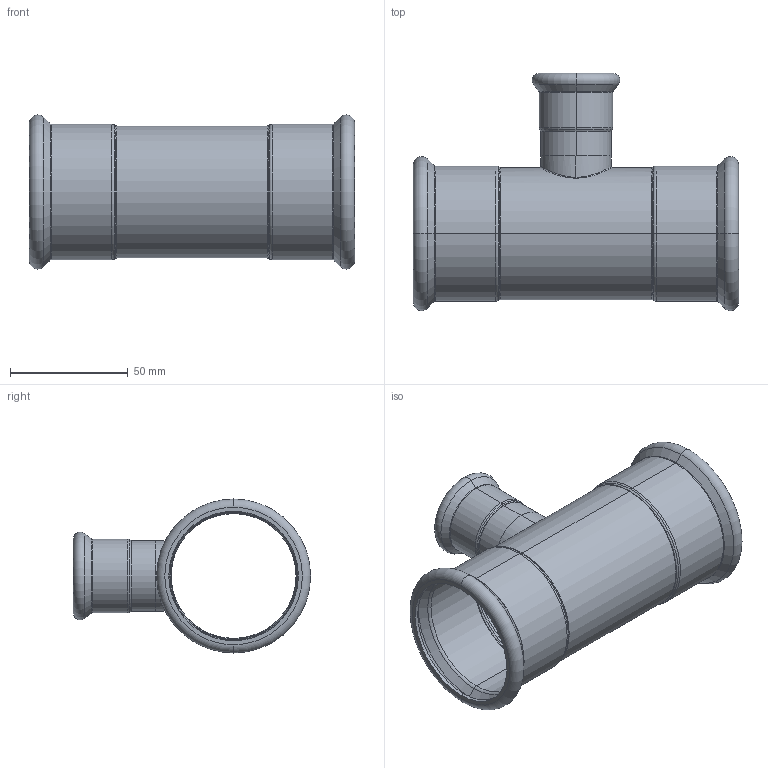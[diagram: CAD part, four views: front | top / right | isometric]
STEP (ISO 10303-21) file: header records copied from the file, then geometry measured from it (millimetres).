
FILE_DESCRIPTION (( 'STEP AP203' ), '1' );
FILE_NAME ('GDA5209.STEP', '2019-01-12T06:04:16', ( '' ), ( '' ), 'SwSTEP 2.0', 'SolidWorks 2015', '' );
FILE_SCHEMA (( 'CONFIG_CONTROL_DESIGN' ));
Length unit declared in the file: millimetre
Products named in the file (3): T-ｉ-01-28; T(R)-¢ñ-54¡Á28''; GDA5209
Assembly tree (2 placements, depth 2):
  GDA5209
    T(R)-¢ñ-54¡Á28''
    T-ｉ-01-28
Bounding box: 138 x 100.69 x 65.39 mm (x, y, z)
Volume: 44040.4 mm3; surface area: 59653 mm2
Topology: 2 solids, 2 shells, 114 faces, 234 edges, 128 vertices
Faces by surface type: torus 48, cylinder 30, cone 24, plane 8, bspline 4
Entity records: 4329 total; most frequent: CARTESIAN_POINT 1539, DIRECTION 620, ORIENTED_EDGE 468, AXIS2_PLACEMENT_3D 283, EDGE_CURVE 234, CIRCLE 168, VERTEX_POINT 128, EDGE_LOOP 124
